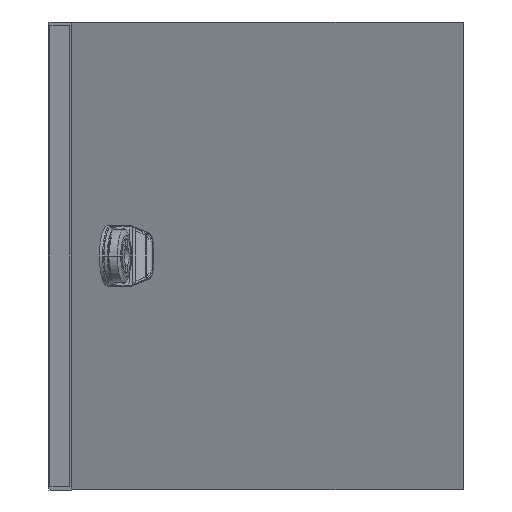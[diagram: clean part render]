
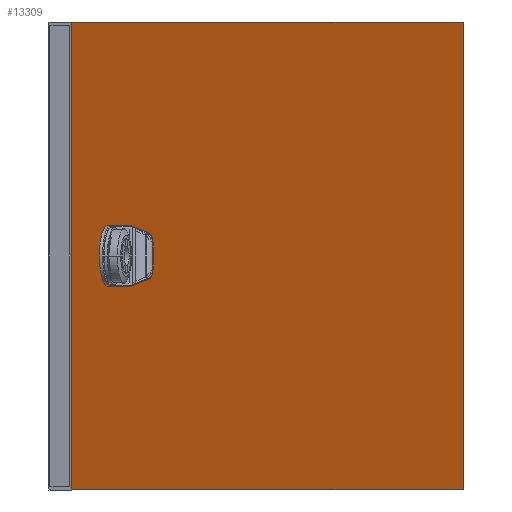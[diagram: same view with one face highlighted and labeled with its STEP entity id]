
A CAD part, front view. The second image highlights one B-rep face of the part: STEP entity #13309.
In plain terms, the highlighted planar face has unit normal (0.966, -0.259, 0).
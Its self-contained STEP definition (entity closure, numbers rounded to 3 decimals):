
#56 = DIRECTION ( 'NONE',  ( 0., 0., -1. ) ) ;
#92 = EDGE_CURVE ( 'NONE', #10685, #6111, #8146, .T. ) ;
#96 = EDGE_LOOP ( 'NONE', ( #3503, #13431, #12571, #9992, #2667, #9828, #805, #4140 ) ) ;
#248 = CIRCLE ( 'NONE', #2044, 16. ) ;
#292 = VECTOR ( 'NONE', #7068, 1000. ) ;
#647 = VERTEX_POINT ( 'NONE', #5159 ) ;
#662 = LINE ( 'NONE', #8398, #13704 ) ;
#764 = DIRECTION ( 'NONE',  ( 0., 0., -1. ) ) ;
#768 = CIRCLE ( 'NONE', #5824, 1. ) ;
#805 = ORIENTED_EDGE ( 'NONE', *, *, #7089, .T. ) ;
#1197 = CARTESIAN_POINT ( 'NONE',  ( -170.465, -630.174, 41. ) ) ;
#1204 = CARTESIAN_POINT ( 'NONE',  ( -166.259, -614.461, 9.579 ) ) ;
#1471 = DIRECTION ( 'NONE',  ( 0., 0., -1. ) ) ;
#1614 = EDGE_CURVE ( 'NONE', #6870, #6111, #4979, .T. ) ;
#1759 = EDGE_CURVE ( 'NONE', #2923, #647, #9276, .T. ) ;
#1890 = CARTESIAN_POINT ( 'NONE',  ( -174.602, -645.63, 9. ) ) ;
#2044 = AXIS2_PLACEMENT_3D ( 'NONE', #11767, #9717, #56 ) ;
#2243 = ORIENTED_EDGE ( 'NONE', *, *, #12322, .F. ) ;
#2560 = DIRECTION ( 'NONE',  ( -0.966, 0.259, 0. ) ) ;
#2571 = VERTEX_POINT ( 'NONE', #1197 ) ;
#2667 = ORIENTED_EDGE ( 'NONE', *, *, #3835, .T. ) ;
#2923 = VERTEX_POINT ( 'NONE', #6786 ) ;
#2936 = DIRECTION ( 'NONE',  ( -0.259, -0.966, 0. ) ) ;
#2967 = CARTESIAN_POINT ( 'NONE',  ( -167.362, -618.582, 41. ) ) ;
#2988 = VECTOR ( 'NONE', #764, 1000. ) ;
#3376 = VECTOR ( 'NONE', #2936, 1000. ) ;
#3429 = CARTESIAN_POINT ( 'NONE',  ( 16.486, 68.237, 25. ) ) ;
#3503 = ORIENTED_EDGE ( 'NONE', *, *, #92, .T. ) ;
#3835 = EDGE_CURVE ( 'NONE', #13097, #2571, #8708, .T. ) ;
#3845 = PLANE ( 'NONE',  #13363 ) ;
#3910 = LINE ( 'NONE', #1890, #3376 ) ;
#3912 = FACE_OUTER_BOUND ( 'NONE', #7331, .T. ) ;
#3974 = CARTESIAN_POINT ( 'NONE',  ( -166.069, -613.752, 41. ) ) ;
#3981 = DIRECTION ( 'NONE',  ( 0., 0., -1. ) ) ;
#4023 = CIRCLE ( 'NONE', #10117, 16. ) ;
#4140 = ORIENTED_EDGE ( 'NONE', *, *, #13859, .F. ) ;
#4191 = CARTESIAN_POINT ( 'NONE',  ( -86.298, -315.744, -98. ) ) ;
#4200 = AXIS2_PLACEMENT_3D ( 'NONE', #11165, #2560, #6787 ) ;
#4456 = DIRECTION ( 'NONE',  ( 0., 0., -1. ) ) ;
#4552 = CARTESIAN_POINT ( 'NONE',  ( -170.465, -630.174, 9. ) ) ;
#4629 = EDGE_CURVE ( 'NONE', #2571, #11360, #6934, .T. ) ;
#4739 = CARTESIAN_POINT ( 'NONE',  ( -167.362, -618.582, 25. ) ) ;
#4856 = DIRECTION ( 'NONE',  ( 0.259, 0.966, 0. ) ) ;
#4963 = ORIENTED_EDGE ( 'NONE', *, *, #1759, .F. ) ;
#4979 = CIRCLE ( 'NONE', #11538, 1. ) ;
#5159 = CARTESIAN_POINT ( 'NONE',  ( -189.082, -699.726, 148. ) ) ;
#5291 = CARTESIAN_POINT ( 'NONE',  ( 16.486, 68.237, -98. ) ) ;
#5530 = CARTESIAN_POINT ( 'NONE',  ( 16.486, 68.237, 148. ) ) ;
#5563 = CARTESIAN_POINT ( 'NONE',  ( -166.328, -614.718, 39.457 ) ) ;
#5575 = VERTEX_POINT ( 'NONE', #12760 ) ;
#5727 = DIRECTION ( 'NONE',  ( -0.966, 0.259, 0. ) ) ;
#5824 = AXIS2_PLACEMENT_3D ( 'NONE', #5563, #10940, #8742 ) ;
#5871 = CARTESIAN_POINT ( 'NONE',  ( -174.602, -645.63, 41. ) ) ;
#5898 = EDGE_CURVE ( 'NONE', #11153, #2923, #13877, .T. ) ;
#5979 = VERTEX_POINT ( 'NONE', #5530 ) ;
#6111 = VERTEX_POINT ( 'NONE', #12779 ) ;
#6310 = CARTESIAN_POINT ( 'NONE',  ( -166.069, -613.752, 39.457 ) ) ;
#6545 = EDGE_CURVE ( 'NONE', #13913, #13097, #3910, .T. ) ;
#6658 = DIRECTION ( 'NONE',  ( 0.259, 0.966, 0. ) ) ;
#6786 = CARTESIAN_POINT ( 'NONE',  ( -189.082, -699.726, -98. ) ) ;
#6787 = DIRECTION ( 'NONE',  ( 0., 0., -1. ) ) ;
#6870 = VERTEX_POINT ( 'NONE', #1204 ) ;
#6934 = LINE ( 'NONE', #5871, #12570 ) ;
#7068 = DIRECTION ( 'NONE',  ( 0., 0., 1. ) ) ;
#7089 = EDGE_CURVE ( 'NONE', #11360, #5575, #248, .T. ) ;
#7234 = DIRECTION ( 'NONE',  ( -0.259, -0.966, 0. ) ) ;
#7331 = EDGE_LOOP ( 'NONE', ( #4963, #9255, #13444, #2243 ) ) ;
#7581 = EDGE_CURVE ( 'NONE', #6870, #13913, #4023, .T. ) ;
#7922 = DIRECTION ( 'NONE',  ( 0.966, -0.259, 0. ) ) ;
#7991 = CARTESIAN_POINT ( 'NONE',  ( -166.328, -614.718, 10.543 ) ) ;
#8136 = DIRECTION ( 'NONE',  ( 0., 0., 1. ) ) ;
#8146 = LINE ( 'NONE', #3974, #2988 ) ;
#8221 = CARTESIAN_POINT ( 'NONE',  ( -129.351, -476.582, 904. ) ) ;
#8398 = CARTESIAN_POINT ( 'NONE',  ( -86.298, -315.744, 148. ) ) ;
#8708 = CIRCLE ( 'NONE', #4200, 16. ) ;
#8742 = DIRECTION ( 'NONE',  ( 0., 0., -1. ) ) ;
#9255 = ORIENTED_EDGE ( 'NONE', *, *, #5898, .F. ) ;
#9276 = LINE ( 'NONE', #11531, #292 ) ;
#9717 = DIRECTION ( 'NONE',  ( -0.966, 0.259, 0. ) ) ;
#9828 = ORIENTED_EDGE ( 'NONE', *, *, #4629, .T. ) ;
#9902 = VECTOR ( 'NONE', #7234, 1000. ) ;
#9981 = EDGE_CURVE ( 'NONE', #5979, #11153, #11065, .T. ) ;
#9992 = ORIENTED_EDGE ( 'NONE', *, *, #6545, .T. ) ;
#10117 = AXIS2_PLACEMENT_3D ( 'NONE', #4739, #5727, #4456 ) ;
#10685 = VERTEX_POINT ( 'NONE', #6310 ) ;
#10940 = DIRECTION ( 'NONE',  ( 0.966, -0.259, 0. ) ) ;
#11065 = LINE ( 'NONE', #3429, #11945 ) ;
#11153 = VERTEX_POINT ( 'NONE', #5291 ) ;
#11165 = CARTESIAN_POINT ( 'NONE',  ( -170.465, -630.174, 25. ) ) ;
#11360 = VERTEX_POINT ( 'NONE', #2967 ) ;
#11531 = CARTESIAN_POINT ( 'NONE',  ( -189.082, -699.726, 25. ) ) ;
#11538 = AXIS2_PLACEMENT_3D ( 'NONE', #7991, #7922, #8136 ) ;
#11767 = CARTESIAN_POINT ( 'NONE',  ( -167.362, -618.582, 25. ) ) ;
#11945 = VECTOR ( 'NONE', #1471, 1000. ) ;
#12322 = EDGE_CURVE ( 'NONE', #647, #5979, #662, .T. ) ;
#12527 = DIRECTION ( 'NONE',  ( 0.966, -0.259, 0. ) ) ;
#12570 = VECTOR ( 'NONE', #6658, 1000. ) ;
#12571 = ORIENTED_EDGE ( 'NONE', *, *, #7581, .T. ) ;
#12760 = CARTESIAN_POINT ( 'NONE',  ( -166.259, -614.461, 40.42 ) ) ;
#12779 = CARTESIAN_POINT ( 'NONE',  ( -166.069, -613.752, 10.543 ) ) ;
#13097 = VERTEX_POINT ( 'NONE', #4552 ) ;
#13199 = CARTESIAN_POINT ( 'NONE',  ( -167.362, -618.582, 9. ) ) ;
#13309 = ADVANCED_FACE ( 'NONE', ( #3912, #13658 ), #3845, .T. ) ;
#13363 = AXIS2_PLACEMENT_3D ( 'NONE', #8221, #12527, #3981 ) ;
#13431 = ORIENTED_EDGE ( 'NONE', *, *, #1614, .F. ) ;
#13444 = ORIENTED_EDGE ( 'NONE', *, *, #9981, .F. ) ;
#13658 = FACE_BOUND ( 'NONE', #96, .T. ) ;
#13704 = VECTOR ( 'NONE', #4856, 1000. ) ;
#13859 = EDGE_CURVE ( 'NONE', #10685, #5575, #768, .T. ) ;
#13877 = LINE ( 'NONE', #4191, #9902 ) ;
#13913 = VERTEX_POINT ( 'NONE', #13199 ) ;
